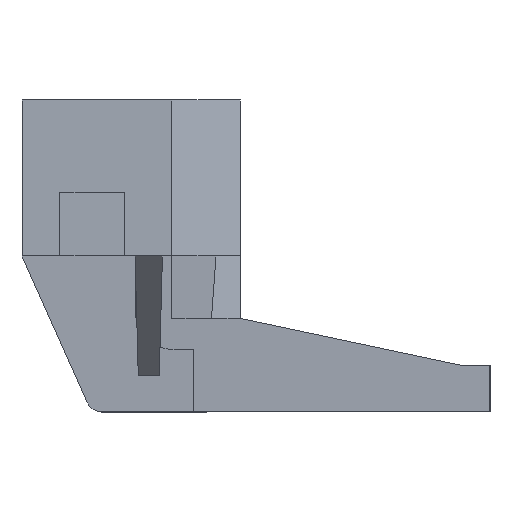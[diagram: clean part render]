
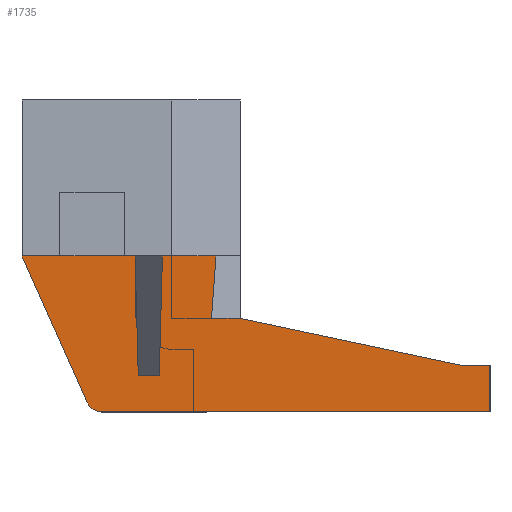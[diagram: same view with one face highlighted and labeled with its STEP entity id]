
A CAD part, left-side view. The second image highlights one B-rep face of the part: STEP entity #1735.
In plain terms, the highlighted planar face has unit normal (-1, 0, -0.026).
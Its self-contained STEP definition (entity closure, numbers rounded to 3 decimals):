
#141 = CARTESIAN_POINT ( 'NONE',  ( 33.792, 21.2, -10. ) ) ;
#270 = VERTEX_POINT ( 'NONE', #20132 ) ;
#917 = EDGE_CURVE ( 'NONE', #9022, #2745, #17135, .T. ) ;
#1075 = VERTEX_POINT ( 'NONE', #1265 ) ;
#1209 = VECTOR ( 'NONE', #20253, 1000. ) ;
#1265 = CARTESIAN_POINT ( 'NONE',  ( 33.792, -3.668, -10. ) ) ;
#1707 = CARTESIAN_POINT ( 'NONE',  ( 34.158, -35.028, -24. ) ) ;
#1735 = ADVANCED_FACE ( 'NONE', ( #3700 ), #5905, .T. ) ;
#2013 = LINE ( 'NONE', #8004, #12019 ) ;
#2628 = DIRECTION ( 'NONE',  ( 0.026, -0.026, -0.999 ) ) ;
#2745 = VERTEX_POINT ( 'NONE', #20378 ) ;
#3235 = EDGE_CURVE ( 'NONE', #1075, #9667, #18599, .T. ) ;
#3400 = ORIENTED_EDGE ( 'NONE', *, *, #15618, .T. ) ;
#3587 = VERTEX_POINT ( 'NONE', #8790 ) ;
#3700 = FACE_OUTER_BOUND ( 'NONE', #21256, .T. ) ;
#3748 = VERTEX_POINT ( 'NONE', #14007 ) ;
#3751 = CARTESIAN_POINT ( 'NONE',  ( 34.001, 3.2, -18. ) ) ;
#3850 = ORIENTED_EDGE ( 'NONE', *, *, #19417, .T. ) ;
#4046 = LINE ( 'NONE', #9562, #4282 ) ;
#4075 = VECTOR ( 'NONE', #2628, 1000. ) ;
#4156 = LINE ( 'NONE', #4285, #4075 ) ;
#4282 = VECTOR ( 'NONE', #9520, 1000. ) ;
#4285 = CARTESIAN_POINT ( 'NONE',  ( 34.465, 6.027, -35.711 ) ) ;
#4337 = CARTESIAN_POINT ( 'NONE',  ( 34.001, -3.092, -18. ) ) ;
#5069 = VERTEX_POINT ( 'NONE', #17791 ) ;
#5445 = VERTEX_POINT ( 'NONE', #11769 ) ;
#5642 = LINE ( 'NONE', #6069, #5769 ) ;
#5769 = VECTOR ( 'NONE', #5970, 1000. ) ;
#5905 = PLANE ( 'NONE',  #7315 ) ;
#5970 = DIRECTION ( 'NONE',  ( -0.005, 0.978, 0.208 ) ) ;
#6069 = CARTESIAN_POINT ( 'NONE',  ( 33.962, 0.325, -16.485 ) ) ;
#6215 = LINE ( 'NONE', #3751, #1209 ) ;
#6360 = DIRECTION ( 'NONE',  ( 0.026, 0., -1. ) ) ;
#6494 = DIRECTION ( 'NONE',  ( -0.026, -0.072, 0.997 ) ) ;
#6562 = ORIENTED_EDGE ( 'NONE', *, *, #12243, .F. ) ;
#6574 = VERTEX_POINT ( 'NONE', #1707 ) ;
#6606 = LINE ( 'NONE', #15106, #16081 ) ;
#6617 = CARTESIAN_POINT ( 'NONE',  ( 34.194, 3.603, -25.379 ) ) ;
#6820 = VERTEX_POINT ( 'NONE', #4337 ) ;
#6900 = ORIENTED_EDGE ( 'NONE', *, *, #15115, .F. ) ;
#7152 = VECTOR ( 'NONE', #18136, 1000. ) ;
#7267 = DIRECTION ( 'NONE',  ( -0.024, 0.407, 0.913 ) ) ;
#7280 = DIRECTION ( 'NONE',  ( 0.026, 0.026, -0.999 ) ) ;
#7315 = AXIS2_PLACEMENT_3D ( 'NONE', #7559, #10837, #14137 ) ;
#7388 = EDGE_CURVE ( 'NONE', #16190, #6574, #15089, .T. ) ;
#7497 = ORIENTED_EDGE ( 'NONE', *, *, #12028, .T. ) ;
#7559 = CARTESIAN_POINT ( 'NONE',  ( 34.315, 3.2, -30. ) ) ;
#7627 = LINE ( 'NONE', #19818, #7152 ) ;
#8004 = CARTESIAN_POINT ( 'NONE',  ( 34.18, -38.8, -24.815 ) ) ;
#8123 = CARTESIAN_POINT ( 'NONE',  ( 33.804, -3.635, -10.459 ) ) ;
#8501 = ORIENTED_EDGE ( 'NONE', *, *, #3235, .T. ) ;
#8790 = CARTESIAN_POINT ( 'NONE',  ( 34.315, 10.997, -30. ) ) ;
#9022 = VERTEX_POINT ( 'NONE', #141 ) ;
#9074 = VECTOR ( 'NONE', #10115, 1000. ) ;
#9520 = DIRECTION ( 'NONE',  ( 0., 1., 0. ) ) ;
#9562 = CARTESIAN_POINT ( 'NONE',  ( 34.194, 3.2, -25.379 ) ) ;
#9667 = VERTEX_POINT ( 'NONE', #16861 ) ;
#9992 = CARTESIAN_POINT ( 'NONE',  ( 34.158, 6.7, -24. ) ) ;
#10115 = DIRECTION ( 'NONE',  ( 0., 1., 0. ) ) ;
#10213 = VECTOR ( 'NONE', #15694, 1000. ) ;
#10310 = VERTEX_POINT ( 'NONE', #6617 ) ;
#10535 =( BOUNDED_CURVE ( )  B_SPLINE_CURVE ( 3, ( #15442, #15493, #15513, #15519 ),
 .UNSPECIFIED., .F., .F. ) 
 B_SPLINE_CURVE_WITH_KNOTS ( ( 4, 4 ),
 ( 5.131, 6.283 ),
 .UNSPECIFIED. ) 
 CURVE ( )  GEOMETRIC_REPRESENTATION_ITEM ( )  RATIONAL_B_SPLINE_CURVE ( ( 1., 0.892, 0.892, 1. ) ) 
 REPRESENTATION_ITEM ( '' )  );
#10716 = ORIENTED_EDGE ( 'NONE', *, *, #18016, .T. ) ;
#10837 = DIRECTION ( 'NONE',  ( -1., 0., -0.026 ) ) ;
#10874 = ORIENTED_EDGE ( 'NONE', *, *, #13048, .F. ) ;
#10899 = LINE ( 'NONE', #8123, #15022 ) ;
#11450 = CARTESIAN_POINT ( 'NONE',  ( 34.158, -38.8, -24. ) ) ;
#11598 = EDGE_CURVE ( 'NONE', #5069, #3587, #7627, .T. ) ;
#11620 = VECTOR ( 'NONE', #19936, 1000. ) ;
#11769 = CARTESIAN_POINT ( 'NONE',  ( 34.284, 12.824, -28.813 ) ) ;
#12019 = VECTOR ( 'NONE', #6360, 1000. ) ;
#12028 = EDGE_CURVE ( 'NONE', #6820, #1075, #10899, .T. ) ;
#12243 = EDGE_CURVE ( 'NONE', #5445, #9022, #16167, .T. ) ;
#13048 = EDGE_CURVE ( 'NONE', #16190, #5069, #2013, .T. ) ;
#13672 = CARTESIAN_POINT ( 'NONE',  ( 33.792, 21.2, -10. ) ) ;
#14007 = CARTESIAN_POINT ( 'NONE',  ( 34.001, -6.8, -18. ) ) ;
#14137 = DIRECTION ( 'NONE',  ( -0.026, 0., 1. ) ) ;
#14231 = EDGE_CURVE ( 'NONE', #6820, #3748, #6215, .T. ) ;
#14356 = ORIENTED_EDGE ( 'NONE', *, *, #7388, .T. ) ;
#15022 = VECTOR ( 'NONE', #6494, 1000. ) ;
#15089 = LINE ( 'NONE', #9992, #9074 ) ;
#15106 = CARTESIAN_POINT ( 'NONE',  ( 34.465, 3.873, -35.711 ) ) ;
#15115 = EDGE_CURVE ( 'NONE', #2745, #270, #4156, .T. ) ;
#15442 = CARTESIAN_POINT ( 'NONE',  ( 34.284, 12.824, -28.813 ) ) ;
#15493 = CARTESIAN_POINT ( 'NONE',  ( 34.304, 12.493, -29.557 ) ) ;
#15513 = CARTESIAN_POINT ( 'NONE',  ( 34.315, 11.81, -30. ) ) ;
#15519 = CARTESIAN_POINT ( 'NONE',  ( 34.315, 10.997, -30. ) ) ;
#15618 = EDGE_CURVE ( 'NONE', #6574, #3748, #5642, .T. ) ;
#15694 = DIRECTION ( 'NONE',  ( 0., -1., 0. ) ) ;
#16081 = VECTOR ( 'NONE', #7280, 1000. ) ;
#16167 = LINE ( 'NONE', #16779, #16895 ) ;
#16190 = VERTEX_POINT ( 'NONE', #11450 ) ;
#16327 = ORIENTED_EDGE ( 'NONE', *, *, #16565, .T. ) ;
#16565 = EDGE_CURVE ( 'NONE', #5445, #3587, #10535, .T. ) ;
#16779 = CARTESIAN_POINT ( 'NONE',  ( 34.316, 12.281, -30.033 ) ) ;
#16861 = CARTESIAN_POINT ( 'NONE',  ( 33.792, 3.2, -10. ) ) ;
#16895 = VECTOR ( 'NONE', #7267, 1000. ) ;
#17135 = LINE ( 'NONE', #13672, #10213 ) ;
#17791 = CARTESIAN_POINT ( 'NONE',  ( 34.315, -38.8, -30. ) ) ;
#17981 = ORIENTED_EDGE ( 'NONE', *, *, #11598, .F. ) ;
#18016 = EDGE_CURVE ( 'NONE', #9667, #10310, #6606, .T. ) ;
#18136 = DIRECTION ( 'NONE',  ( 0., 1., 0. ) ) ;
#18377 = ORIENTED_EDGE ( 'NONE', *, *, #917, .F. ) ;
#18599 = LINE ( 'NONE', #20715, #11620 ) ;
#19417 = EDGE_CURVE ( 'NONE', #10310, #270, #4046, .T. ) ;
#19818 = CARTESIAN_POINT ( 'NONE',  ( 34.315, 3.2, -30. ) ) ;
#19936 = DIRECTION ( 'NONE',  ( 0., 1., 0. ) ) ;
#20132 = CARTESIAN_POINT ( 'NONE',  ( 34.194, 6.297, -25.379 ) ) ;
#20253 = DIRECTION ( 'NONE',  ( 0., -1., 0. ) ) ;
#20378 = CARTESIAN_POINT ( 'NONE',  ( 33.792, 6.7, -10. ) ) ;
#20453 = ORIENTED_EDGE ( 'NONE', *, *, #14231, .F. ) ;
#20715 = CARTESIAN_POINT ( 'NONE',  ( 33.792, 3.2, -10. ) ) ;
#21256 = EDGE_LOOP ( 'NONE', ( #6562, #16327, #17981, #10874, #14356, #3400, #20453, #7497, #8501, #10716, #3850, #6900, #18377 ) ) ;
